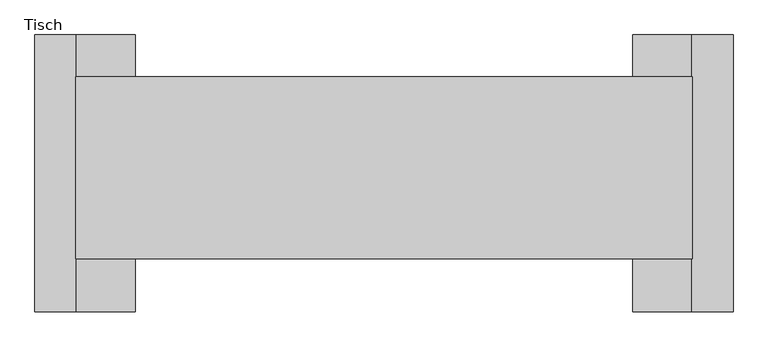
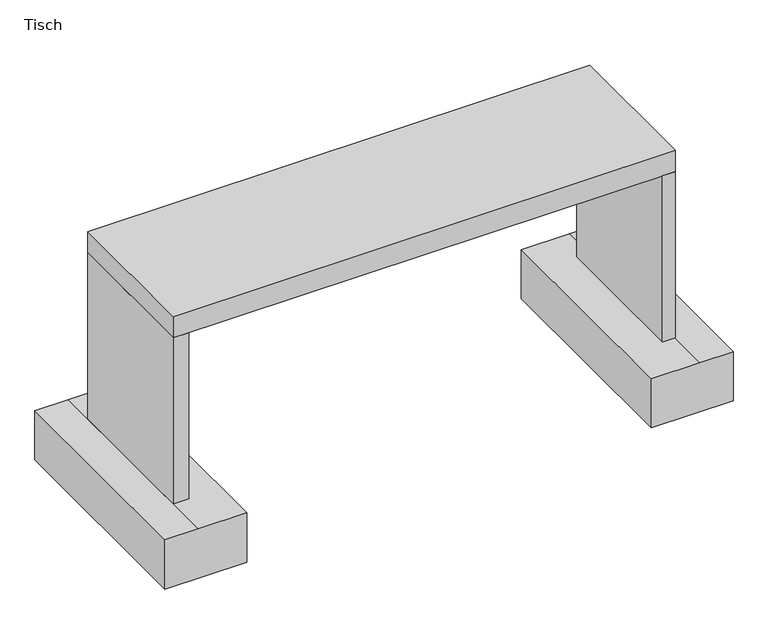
"""IFC4 building model written with IfcOpenShell, lengths in millimetres: furniture geometry, Fixierte Ausstattung Tisch : Tisch."""

from ifc_helpers import new_model, si_unit, frame, origin, origin_with_axes, place, context, project, spatial, polyline, outline, extrude, source, transform, mapped, element, save


def tisch_469a66c3(model_context):
    return source(origin(), model_context, "Body", "SweptSolid", [
        extrude(outline(polyline([(0.0, -688.2667023), (0.0, -851.0509322), (0.0, -964.2667023), (-176.0, -964.2667023), (-176.0, -688.2667023), (0.0, -688.2667023)])), frame((0.0, -445.5441128, 0.0), z_axis=(0.0, 1.0, 0.0), x_axis=(0.0, 0.0, 1.0)), (0.0, 0.0, 1.0), 760.825519),
        extrude(outline(polyline([(0.0, 679.3401535), (-176.0, 679.3401535), (-176.0, 955.3401535), (0.0, 955.3401535), (0.0, 842.1243834), (0.0, 679.3401535)])), frame((0.0, -445.5441128, 0.0), z_axis=(0.0, 1.0, 0.0), x_axis=(0.0, 0.0, 1.0)), (0.0, 0.0, 1.0), 760.825519),
        extrude(outline(polyline([(-852.5334046, 200.0), (-800.0, 200.0), (-800.0, -300.0), (-852.5334046, -300.0), (-852.5334046, 200.0)])), origin_with_axes(), (0.0, 0.0, 1.0), 593.868043),
        extrude(outline(polyline([(843.6068559, 200.0), (843.6068559, -300.0), (800.0, -300.0), (800.0, 200.0), (843.6068559, 200.0)])), origin_with_axes(), (0.0, 0.0, 1.0), 593.868043),
        extrude(outline(polyline([(843.6068559, -300.0), (-852.5334046, -300.0), (-852.5334046, 200.0), (843.6068559, 200.0), (843.6068559, -300.0)])), frame((0.0, 0.0, 593.868043), z_axis=(0.0, 0.0, 1.0), x_axis=(1.0, 0.0, 0.0)), (0.0, 0.0, 1.0), 76.131957),
    ])


if __name__ == "__main__":
    model = new_model("IFC4")
    model_context = context("Model", 3, world=origin())
    ifc_project = project(units=[si_unit("LENGTHUNIT", "METRE", prefix="MILLI")], contexts=[model_context])
    site = spatial("IfcSite", under=ifc_project)
    building = spatial("IfcBuilding", under=site)
    placement = place(None, origin())
    tisch_shape = tisch_469a66c3(model_context)
    element("IfcFurniture", 1, ObjectType="Fixierte Ausstattung Tisch : Tisch", at=placement, inside=building, context=model_context, shape_type="MappedRepresentation", body=[
        mapped(tisch_shape, transform((0.0, 0.0, 0.0), x_axis=(1.0, 0.0, 0.0), y_axis=(0.0, 1.0, 0.0), z_axis=(0.0, 0.0, 1.0))),
    ])
    save(model, "model.ifc")
